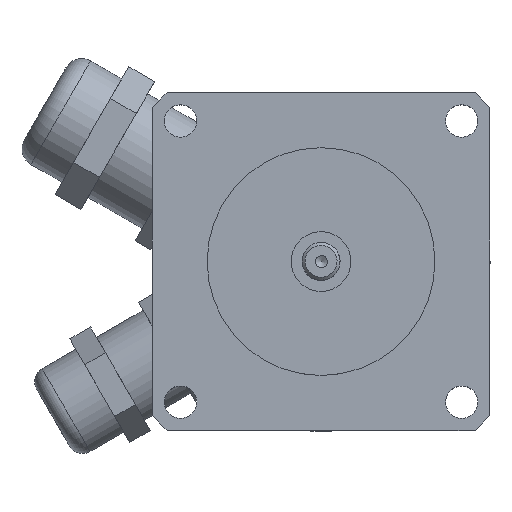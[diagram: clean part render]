
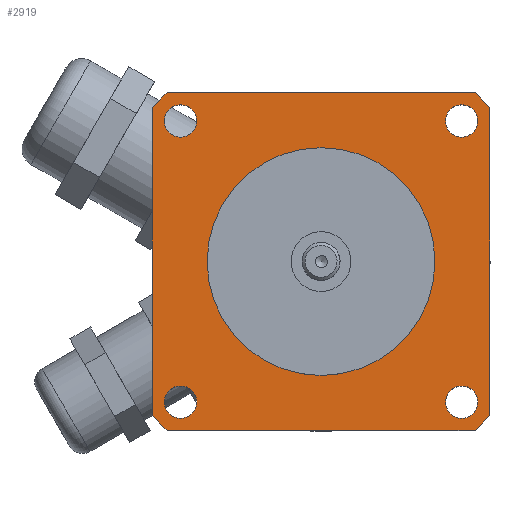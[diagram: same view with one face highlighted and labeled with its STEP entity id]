
A CAD part, top view. The second image highlights one B-rep face of the part: STEP entity #2919.
In plain terms, the highlighted planar face has unit normal (0, 0, 1).
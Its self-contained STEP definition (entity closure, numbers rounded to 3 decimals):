
#2551=CARTESIAN_POINT('',(19.05,0.,42.7));
#2552=VERTEX_POINT('',#2551);
#2553=CARTESIAN_POINT('',(0.,0.,42.7));
#2554=DIRECTION('',(0.0,0.0,-1.0));
#2555=DIRECTION('',(-1.0,0.0,0.0));
#2556=AXIS2_PLACEMENT_3D('',#2553,#2554,#2555);
#2557=CIRCLE('',#2556,19.05);
#2558=EDGE_CURVE('',#2552,#2552,#2557,.T.);
#2601=CARTESIAN_POINT('',(26.211,23.511,42.7));
#2602=VERTEX_POINT('',#2601);
#2603=CARTESIAN_POINT('',(23.511,23.511,42.7));
#2604=DIRECTION('',(0.0,0.0,-1.0));
#2605=DIRECTION('',(-1.0,0.0,0.0));
#2606=AXIS2_PLACEMENT_3D('',#2603,#2604,#2605);
#2607=CIRCLE('',#2606,2.7);
#2608=EDGE_CURVE('',#2602,#2602,#2607,.T.);
#2621=CARTESIAN_POINT('',(26.211,-23.511,42.7));
#2622=VERTEX_POINT('',#2621);
#2623=CARTESIAN_POINT('',(23.511,-23.511,42.7));
#2624=DIRECTION('',(0.0,0.0,-1.0));
#2625=DIRECTION('',(-1.0,0.0,0.0));
#2626=AXIS2_PLACEMENT_3D('',#2623,#2624,#2625);
#2627=CIRCLE('',#2626,2.7);
#2628=EDGE_CURVE('',#2622,#2622,#2627,.T.);
#2641=CARTESIAN_POINT('',(-20.811,23.511,42.7));
#2642=VERTEX_POINT('',#2641);
#2643=CARTESIAN_POINT('',(-23.511,23.511,42.7));
#2644=DIRECTION('',(0.0,0.0,-1.0));
#2645=DIRECTION('',(-1.0,0.0,0.0));
#2646=AXIS2_PLACEMENT_3D('',#2643,#2644,#2645);
#2647=CIRCLE('',#2646,2.7);
#2648=EDGE_CURVE('',#2642,#2642,#2647,.T.);
#2661=CARTESIAN_POINT('',(-20.811,-23.511,42.7));
#2662=VERTEX_POINT('',#2661);
#2663=CARTESIAN_POINT('',(-23.511,-23.511,42.7));
#2664=DIRECTION('',(0.0,0.0,-1.0));
#2665=DIRECTION('',(-1.0,0.0,0.0));
#2666=AXIS2_PLACEMENT_3D('',#2663,#2664,#2665);
#2667=CIRCLE('',#2666,2.7);
#2668=EDGE_CURVE('',#2662,#2662,#2667,.T.);
#2681=CARTESIAN_POINT('',(25.75,28.25,42.7));
#2682=VERTEX_POINT('',#2681);
#2683=CARTESIAN_POINT('',(28.25,25.75,42.7));
#2684=VERTEX_POINT('',#2683);
#2685=CARTESIAN_POINT('',(25.75,28.25,42.7));
#2686=DIRECTION('',(0.707,-0.707,0.0));
#2687=VECTOR('',#2686,3.536);
#2688=LINE('',#2685,#2687);
#2689=EDGE_CURVE('',#2682,#2684,#2688,.T.);
#2712=CARTESIAN_POINT('',(28.25,-25.75,42.7));
#2713=VERTEX_POINT('',#2712);
#2714=CARTESIAN_POINT('',(28.25,25.75,42.7));
#2715=DIRECTION('',(0.0,-1.0,0.0));
#2716=VECTOR('',#2715,51.5);
#2717=LINE('',#2714,#2716);
#2718=EDGE_CURVE('',#2684,#2713,#2717,.T.);
#2739=CARTESIAN_POINT('',(25.75,-28.25,42.7));
#2740=VERTEX_POINT('',#2739);
#2741=CARTESIAN_POINT('',(28.25,-25.75,42.7));
#2742=DIRECTION('',(-0.707,-0.707,0.0));
#2743=VECTOR('',#2742,3.536);
#2744=LINE('',#2741,#2743);
#2745=EDGE_CURVE('',#2713,#2740,#2744,.T.);
#2763=CARTESIAN_POINT('',(-25.75,-28.25,42.7));
#2764=VERTEX_POINT('',#2763);
#2765=CARTESIAN_POINT('',(25.75,-28.25,42.7));
#2766=DIRECTION('',(-1.0,0.0,0.0));
#2767=VECTOR('',#2766,51.5);
#2768=LINE('',#2765,#2767);
#2769=EDGE_CURVE('',#2740,#2764,#2768,.T.);
#2789=CARTESIAN_POINT('',(-28.25,-25.75,42.7));
#2790=VERTEX_POINT('',#2789);
#2791=CARTESIAN_POINT('',(-25.75,-28.25,42.7));
#2792=DIRECTION('',(-0.707,0.707,0.0));
#2793=VECTOR('',#2792,3.536);
#2794=LINE('',#2791,#2793);
#2795=EDGE_CURVE('',#2764,#2790,#2794,.T.);
#2813=CARTESIAN_POINT('',(-28.25,25.75,42.7));
#2814=VERTEX_POINT('',#2813);
#2815=CARTESIAN_POINT('',(-28.25,-25.75,42.7));
#2816=DIRECTION('',(0.0,1.0,0.0));
#2817=VECTOR('',#2816,51.5);
#2818=LINE('',#2815,#2817);
#2819=EDGE_CURVE('',#2790,#2814,#2818,.T.);
#2839=CARTESIAN_POINT('',(-25.75,28.25,42.7));
#2840=VERTEX_POINT('',#2839);
#2841=CARTESIAN_POINT('',(-28.25,25.75,42.7));
#2842=DIRECTION('',(0.707,0.707,0.0));
#2843=VECTOR('',#2842,3.536);
#2844=LINE('',#2841,#2843);
#2845=EDGE_CURVE('',#2814,#2840,#2844,.T.);
#2863=CARTESIAN_POINT('',(-25.75,28.25,42.7));
#2864=DIRECTION('',(1.0,0.0,0.0));
#2865=VECTOR('',#2864,51.5);
#2866=LINE('',#2863,#2865);
#2867=EDGE_CURVE('',#2840,#2682,#2866,.T.);
#2889=CARTESIAN_POINT('',(0.,0.,42.7));
#2890=DIRECTION('',(0.0,0.0,1.0));
#2891=DIRECTION('',(1.0,0.0,0.0));
#2892=AXIS2_PLACEMENT_3D('',#2889,#2890,#2891);
#2893=PLANE('',#2892);
#2894=ORIENTED_EDGE('',*,*,#2689,.F.);
#2895=ORIENTED_EDGE('',*,*,#2867,.F.);
#2896=ORIENTED_EDGE('',*,*,#2845,.F.);
#2897=ORIENTED_EDGE('',*,*,#2819,.F.);
#2898=ORIENTED_EDGE('',*,*,#2795,.F.);
#2899=ORIENTED_EDGE('',*,*,#2769,.F.);
#2900=ORIENTED_EDGE('',*,*,#2745,.F.);
#2901=ORIENTED_EDGE('',*,*,#2718,.F.);
#2902=EDGE_LOOP('',(#2894,#2895,#2896,#2897,#2898,#2899,#2900,#2901));
#2903=FACE_OUTER_BOUND('',#2902,.T.);
#2904=ORIENTED_EDGE('',*,*,#2558,.T.);
#2905=EDGE_LOOP('',(#2904));
#2906=FACE_BOUND('',#2905,.T.);
#2907=ORIENTED_EDGE('',*,*,#2608,.T.);
#2908=EDGE_LOOP('',(#2907));
#2909=FACE_BOUND('',#2908,.T.);
#2910=ORIENTED_EDGE('',*,*,#2628,.T.);
#2911=EDGE_LOOP('',(#2910));
#2912=FACE_BOUND('',#2911,.T.);
#2913=ORIENTED_EDGE('',*,*,#2648,.T.);
#2914=EDGE_LOOP('',(#2913));
#2915=FACE_BOUND('',#2914,.T.);
#2916=ORIENTED_EDGE('',*,*,#2668,.T.);
#2917=EDGE_LOOP('',(#2916));
#2918=FACE_BOUND('',#2917,.T.);
#2919=ADVANCED_FACE('',(#2903,#2906,#2909,#2912,#2915,#2918),#2893,.T.);
